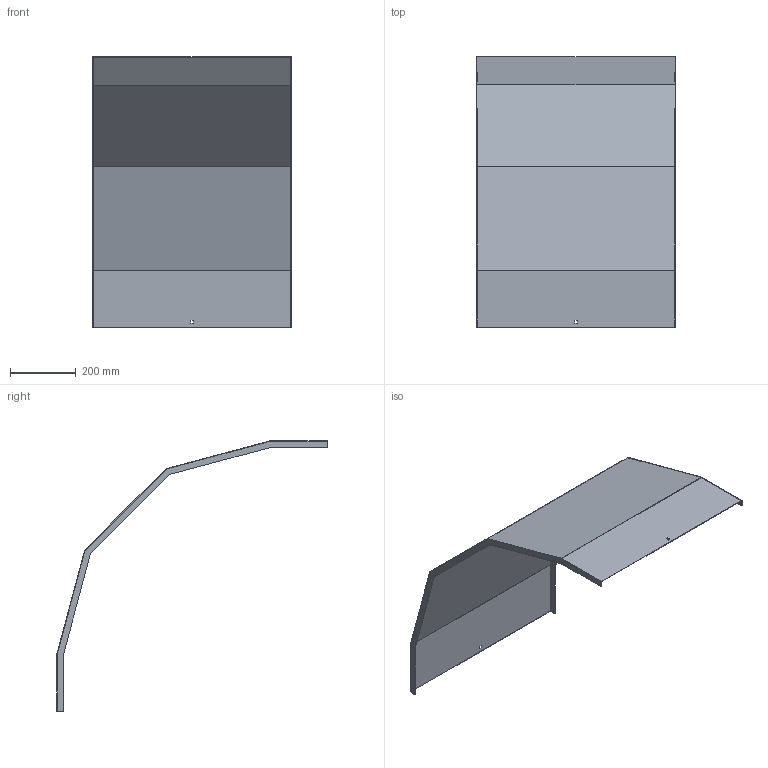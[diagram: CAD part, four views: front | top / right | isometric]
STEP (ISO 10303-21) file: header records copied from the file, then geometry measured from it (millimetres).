
FILE_DESCRIPTION (( 'STEP AP214' ), '1' );
FILE_NAME ('33N5F600.step', '2025-02-21T14:25:50', ( '' ), ( '' ), 'SwSTEP 2.0', 'SolidWorks 2023', '' );
FILE_SCHEMA (( 'AUTOMOTIVE_DESIGN' ));
Length unit declared in the file: millimetre
Products named in the file (1): 33N5F600
Bounding box: 603 x 820.4 x 820.4 mm (x, y, z)
Volume: 1292795.9 mm3; surface area: 1729695.5 mm2
Topology: 1 solids, 1 shells, 34 faces, 96 edges, 64 vertices
Faces by surface type: plane 34
Entity records: 1111 total; most frequent: CARTESIAN_POINT 195, ORIENTED_EDGE 192, DIRECTION 166, VECTOR 96, LINE 96, EDGE_CURVE 96, VERTEX_POINT 64, EDGE_LOOP 38
